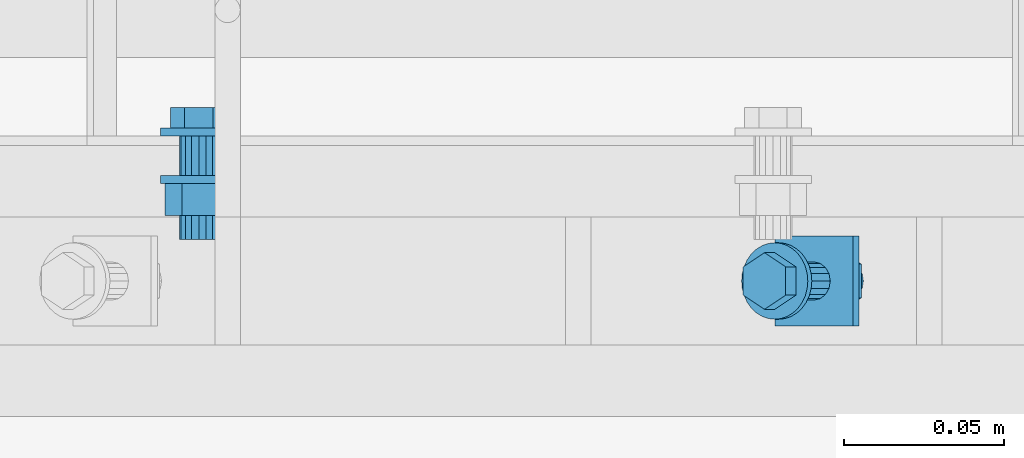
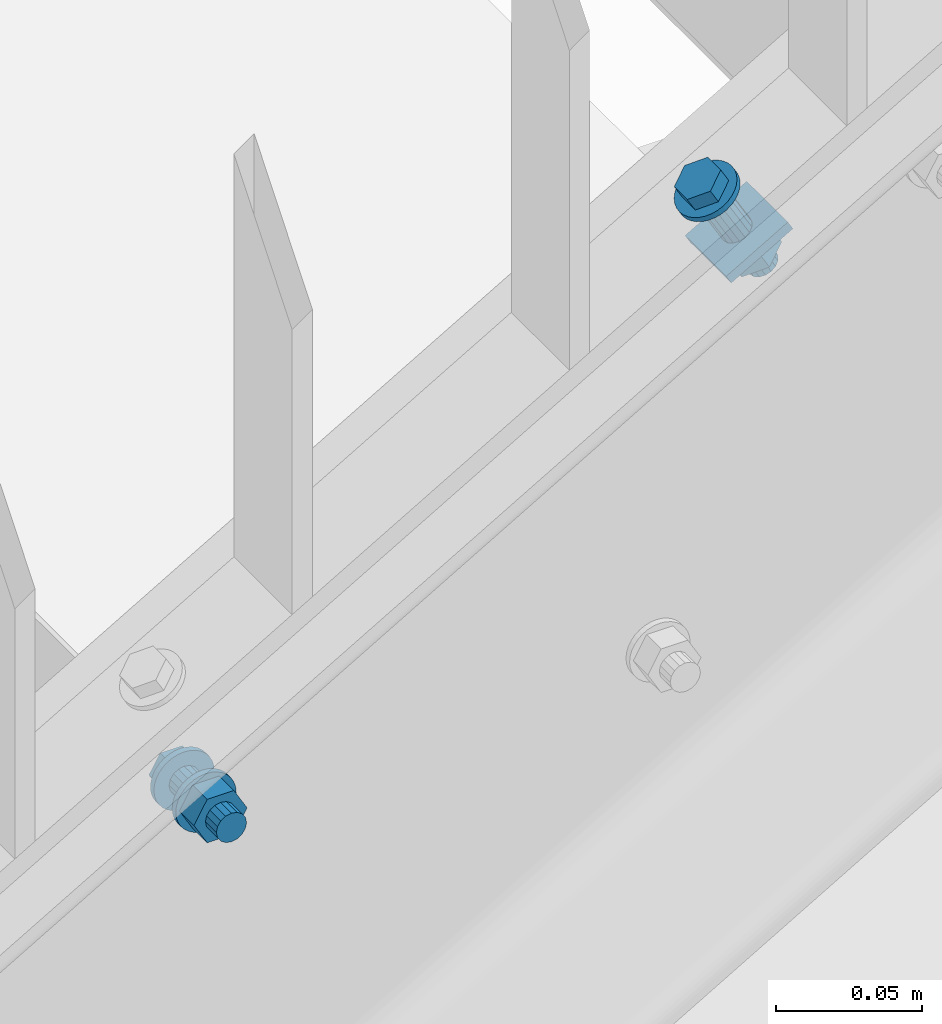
# One storey, part 73 of 145: 2 mechanical fasteners.
"""IFC2X3 building model written with IfcOpenShell, lengths in millimetres."""

from ifc_helpers import new_model, entity, si_unit, converted_unit, origin_with_axes, place, context, project, spatial, faceted_brep, element, save


model = new_model("IFC2X3")

# Units and contexts
model_context = context("Model", 3, precision=1e-09, world=origin_with_axes())
ifc_project = project(units=[si_unit("LENGTHUNIT", "METRE", prefix="MILLI"), si_unit("AREAUNIT", "SQUARE_METRE"), si_unit("VOLUMEUNIT", "CUBIC_METRE"), converted_unit("PLANEANGLEUNIT", "DEGREE", entity("IfcPlaneAngleMeasure", 0.01745329), si_unit("PLANEANGLEUNIT", "RADIAN"), dimensions=[0, 0, 0, 0, 0, 0, 0])], contexts=[model_context])

# Site, building, storey
site_placement = place(None, origin_with_axes())
site = spatial("IfcSite", under=ifc_project, at=site_placement, Name="BZ1 Grund- und Mittelschule 85716 Unterschlei?heim", CompositionType="ELEMENT")
building_placement = place(site_placement, origin_with_axes())
building = spatial("IfcBuilding", under=site, at=building_placement, Name="Struktur 1", CompositionType="ELEMENT")
storey_placement = place(building_placement, origin_with_axes())
storey = spatial("IfcBuildingStorey", under=building, at=storey_placement, Name="Default Storey", CompositionType="ELEMENT", Elevation=0.0)

# Mechanical fasteners
mechanical_fastener_1_placement = place(None, origin_with_axes())
element("IfcMechanicalFastener", 1, at=mechanical_fastener_1_placement, inside=storey, ObjectType="-", NominalDiameter=12.0, NominalLength=45.0, context=model_context, shape_type="Brep", body=[
    faceted_brep([(18899.69427798, -3162.502, 1040.532172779), (18900.951005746, -3162.502, 1038.371007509), (18901.150331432, -3164.843083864, 1038.486916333), (18899.893603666, -3164.843083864, 1040.648081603), (18901.740648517, -3167.094201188, 1038.830188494), (18900.483920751, -3167.094201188, 1040.991353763), (18902.699271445, -3169.168842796, 1039.387632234), (18901.442543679, -3169.168842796, 1041.548797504), (18903.989360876, -3170.987281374, 1040.137825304), (18902.73263311, -3170.987281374, 1042.298990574), (18905.561339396, -3172.479635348, 1041.051938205), (18904.304611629, -3172.479635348, 1043.213103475), (18907.354796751, -3173.58855439, 1042.094842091), (18906.098068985, -3173.58855439, 1044.25600736), (18909.300811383, -3174.271423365, 1043.22645875), (18908.044083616, -3174.271423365, 1045.387624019), (18911.324599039, -3174.502, 1044.403300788), (18910.067871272, -3174.502, 1046.564466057), (18913.348386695, -3174.271423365, 1045.580142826), (18912.091658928, -3174.271423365, 1047.741308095), (18915.294401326, -3173.58855439, 1046.711759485), (18914.03767356, -3173.58855439, 1048.872924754), (18917.087858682, -3172.479635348, 1047.75466337), (18915.831130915, -3172.479635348, 1049.915828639), (18918.659837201, -3170.987281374, 1048.668776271), (18917.403109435, -3170.987281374, 1050.82994154), (18919.949926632, -3169.168842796, 1049.418969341), (18918.693198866, -3169.168842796, 1051.580134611), (18920.90854956, -3167.094201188, 1049.976413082), (18919.651821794, -3167.094201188, 1052.137578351), (18921.498866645, -3164.843083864, 1050.319685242), (18920.242138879, -3164.843083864, 1052.480850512), (18921.698192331, -3162.502, 1050.435594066), (18920.441464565, -3162.502, 1052.596759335), (18921.498866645, -3160.160916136, 1050.319685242), (18920.242138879, -3160.160916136, 1052.480850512), (18920.90854956, -3157.909798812, 1049.976413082), (18919.651821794, -3157.909798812, 1052.137578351), (18919.949926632, -3155.835157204, 1049.418969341), (18918.693198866, -3155.835157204, 1051.580134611), (18918.659837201, -3154.016718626, 1048.668776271), (18917.403109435, -3154.016718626, 1050.82994154), (18917.087858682, -3152.524364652, 1047.75466337), (18915.831130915, -3152.524364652, 1049.915828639), (18915.294401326, -3151.41544561, 1046.711759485), (18914.03767356, -3151.41544561, 1048.872924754), (18913.348386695, -3150.732576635, 1045.580142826), (18912.091658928, -3150.732576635, 1047.741308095), (18911.324599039, -3150.502, 1044.403300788), (18910.067871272, -3150.502, 1046.564466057), (18909.300811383, -3150.732576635, 1043.22645875), (18908.044083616, -3150.732576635, 1045.387624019), (18907.354796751, -3151.41544561, 1042.094842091), (18906.098068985, -3151.41544561, 1044.25600736), (18905.561339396, -3152.524364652, 1041.051938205), (18904.304611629, -3152.524364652, 1043.213103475), (18903.989360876, -3154.016718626, 1040.137825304), (18902.73263311, -3154.016718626, 1042.298990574), (18902.699271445, -3155.835157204, 1039.387632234), (18901.442543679, -3155.835157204, 1041.548797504), (18901.740648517, -3157.909798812, 1038.830188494), (18900.483920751, -3157.909798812, 1040.991353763), (18901.150331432, -3160.160916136, 1038.486916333), (18899.893603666, -3160.160916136, 1040.648081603)], [[[0, 1, 2, 3]], [[3, 2, 4, 5]], [[5, 4, 6, 7]], [[7, 6, 8, 9]], [[9, 8, 10, 11]], [[11, 10, 12, 13]], [[13, 12, 14, 15]], [[15, 14, 16, 17]], [[17, 16, 18, 19]], [[19, 18, 20, 21]], [[21, 20, 22, 23]], [[23, 22, 24, 25]], [[25, 24, 26, 27]], [[27, 26, 28, 29]], [[29, 28, 30, 31]], [[31, 30, 32, 33]], [[33, 32, 34, 35]], [[35, 34, 36, 37]], [[37, 36, 38, 39]], [[39, 38, 40, 41]], [[41, 40, 42, 43]], [[43, 42, 44, 45]], [[45, 44, 46, 47]], [[47, 46, 48, 49]], [[49, 48, 50, 51]], [[51, 50, 52, 53]], [[53, 52, 54, 55]], [[55, 54, 56, 57]], [[57, 56, 58, 59]], [[59, 58, 60, 61]], [[61, 60, 62, 63]], [[63, 62, 1, 0]], [[0, 3, 5, 7, 9, 11, 13, 15, 17, 19, 21, 23, 25, 27, 29, 31, 33, 35, 37, 39, 41, 43, 45, 47, 49, 51, 53, 55, 57, 59, 61, 63]], [[1, 62, 60, 58, 56, 54, 52, 50, 48, 46, 44, 42, 40, 38, 36, 34, 32, 30, 28, 26, 24, 22, 20, 18, 16, 14, 12, 10, 8, 6, 4, 2]]]),
    faceted_brep([(18916.719623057, -3166.9445, 1050.432490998), (18913.502399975, -3166.9445, 1055.965074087), (18906.85064819, -3171.387, 1052.097049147), (18910.067871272, -3171.387, 1046.564466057), (18900.198896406, -3166.9445, 1048.229024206), (18903.416119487, -3166.9445, 1042.696441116), (18900.198896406, -3158.0595, 1048.229024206), (18903.416119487, -3158.0595, 1042.696441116), (18906.85064819, -3153.617, 1052.097049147), (18910.067871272, -3153.617, 1046.564466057), (18913.502399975, -3158.0595, 1055.965074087), (18916.719623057, -3158.0595, 1050.432490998)], [[[0, 1, 2, 3]], [[3, 2, 4, 5]], [[5, 4, 6, 7]], [[7, 6, 8, 9]], [[9, 8, 10, 11]], [[11, 10, 1, 0]], [[4, 2, 1, 10, 8, 6]], [[0, 3, 5, 7, 9, 11]]]),
    faceted_brep([(18906.137802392, -3162.502, 1041.387154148), (18917.118594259, -3162.502, 1022.503743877), (18917.513415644, -3164.798100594, 1022.733334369), (18906.532623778, -3164.798100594, 1041.616744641), (18918.637771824, -3166.744640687, 1023.387152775), (18907.656979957, -3166.744640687, 1042.270563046), (18920.320489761, -3168.045277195, 1024.365661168), (18909.339697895, -3168.045277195, 1043.249071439), (18922.305390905, -3168.502, 1025.519890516), (18911.324599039, -3168.502, 1044.403300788), (18924.290292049, -3168.045277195, 1026.674119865), (18913.309500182, -3168.045277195, 1045.557530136), (18925.973009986, -3166.744640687, 1027.652628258), (18914.99221812, -3166.744640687, 1046.536038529), (18927.097366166, -3164.798100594, 1028.306446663), (18916.1165743, -3164.798100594, 1047.189856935), (18927.492187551, -3162.502, 1028.536037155), (18916.511395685, -3162.502, 1047.419447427), (18927.097366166, -3160.205899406, 1028.306446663), (18916.1165743, -3160.205899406, 1047.189856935), (18925.973009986, -3158.259359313, 1027.652628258), (18914.99221812, -3158.259359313, 1046.536038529), (18924.290292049, -3156.958722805, 1026.674119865), (18913.309500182, -3156.958722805, 1045.557530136), (18922.305390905, -3156.502, 1025.519890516), (18911.324599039, -3156.502, 1044.403300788), (18920.320489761, -3156.958722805, 1024.365661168), (18909.339697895, -3156.958722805, 1043.249071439), (18918.637771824, -3158.259359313, 1023.387152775), (18907.656979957, -3158.259359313, 1042.270563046), (18917.513415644, -3160.205899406, 1022.733334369), (18906.532623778, -3160.205899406, 1041.616744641)], [[[0, 1, 2, 3]], [[3, 2, 4, 5]], [[5, 4, 6, 7]], [[7, 6, 8, 9]], [[9, 8, 10, 11]], [[11, 10, 12, 13]], [[13, 12, 14, 15]], [[15, 14, 16, 17]], [[17, 16, 18, 19]], [[19, 18, 20, 21]], [[21, 20, 22, 23]], [[23, 22, 24, 25]], [[25, 24, 26, 27]], [[27, 26, 28, 29]], [[29, 28, 30, 31]], [[31, 30, 1, 0]], [[0, 3, 5, 7, 9, 11, 13, 15, 17, 19, 21, 23, 25, 27, 29, 31]], [[1, 30, 28, 26, 24, 22, 20, 18, 16, 14, 12, 10, 8, 6, 4, 2]]]),
    faceted_brep([(18936.541552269, -3176.644135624, 1029.171151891), (18934.530787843, -3176.644135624, 1032.629016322), (18910.079993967, -3176.644135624, 1018.410764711), (18912.090758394, -3176.644135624, 1014.95290028), (18910.079993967, -3148.359864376, 1018.410764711), (18912.090758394, -3148.359864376, 1014.95290028), (18934.530787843, -3148.359864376, 1032.629016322), (18936.541552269, -3148.359864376, 1029.171151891)], [[[0, 1, 2, 3]], [[3, 2, 4, 5]], [[5, 4, 6, 7]], [[7, 6, 1, 0]], [[4, 2, 1, 6]], [[0, 3, 5, 7]]]),
    faceted_brep([(18937.241319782, -3167.777, 1018.010236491), (18932.214408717, -3167.777, 1026.654897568), (18924.316155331, -3173.052, 1022.062026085), (18929.343066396, -3173.052, 1013.417365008), (18916.417901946, -3167.777, 1017.469154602), (18921.444813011, -3167.777, 1008.824493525), (18916.417901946, -3157.227, 1017.469154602), (18921.444813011, -3157.227, 1008.824493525), (18924.316155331, -3151.952, 1022.062026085), (18929.343066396, -3151.952, 1013.417365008), (18932.214408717, -3157.227, 1026.654897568), (18937.241319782, -3157.227, 1018.010236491)], [[[0, 1, 2, 3]], [[3, 2, 4, 5]], [[5, 4, 6, 7]], [[7, 6, 8, 9]], [[9, 8, 10, 11]], [[11, 10, 1, 0]], [[4, 2, 1, 10, 8, 6]], [[0, 3, 5, 7, 9, 11]]]),
    faceted_brep([(18924.15626975, -3162.502, 1010.401218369), (18927.50217442, -3162.502, 1004.64734457), (18927.896995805, -3164.798100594, 1004.876935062), (18924.551091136, -3164.798100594, 1010.630808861), (18929.021351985, -3166.744640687, 1005.530753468), (18925.675447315, -3166.744640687, 1011.284627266), (18930.704069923, -3168.045277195, 1006.509261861), (18927.358165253, -3168.045277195, 1012.26313566), (18932.688971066, -3168.502, 1007.663491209), (18929.343066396, -3168.502, 1013.417365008), (18934.67387221, -3168.045277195, 1008.817720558), (18931.32796754, -3168.045277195, 1014.571594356), (18936.356590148, -3166.744640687, 1009.796228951), (18933.010685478, -3166.744640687, 1015.55010275), (18937.480946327, -3164.798100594, 1010.450047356), (18934.135041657, -3164.798100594, 1016.203921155), (18937.875767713, -3162.502, 1010.679637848), (18934.529863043, -3162.502, 1016.433511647), (18937.480946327, -3160.205899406, 1010.450047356), (18934.135041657, -3160.205899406, 1016.203921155), (18936.356590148, -3158.259359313, 1009.796228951), (18933.010685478, -3158.259359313, 1015.55010275), (18934.67387221, -3156.958722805, 1008.817720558), (18931.32796754, -3156.958722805, 1014.571594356), (18932.688971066, -3156.502, 1007.663491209), (18929.343066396, -3156.502, 1013.417365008), (18930.704069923, -3156.958722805, 1006.509261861), (18927.358165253, -3156.958722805, 1012.26313566), (18929.021351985, -3158.259359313, 1005.530753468), (18925.675447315, -3158.259359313, 1011.284627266), (18927.896995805, -3160.205899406, 1004.876935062), (18924.551091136, -3160.205899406, 1010.630808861)], [[[0, 1, 2, 3]], [[3, 2, 4, 5]], [[5, 4, 6, 7]], [[7, 6, 8, 9]], [[9, 8, 10, 11]], [[11, 10, 12, 13]], [[13, 12, 14, 15]], [[15, 14, 16, 17]], [[17, 16, 18, 19]], [[19, 18, 20, 21]], [[21, 20, 22, 23]], [[23, 22, 24, 25]], [[25, 24, 26, 27]], [[27, 26, 28, 29]], [[29, 28, 30, 31]], [[31, 30, 1, 0]], [[0, 3, 5, 7, 9, 11, 13, 15, 17, 19, 21, 23, 25, 27, 29, 31]], [[1, 30, 28, 26, 24, 22, 20, 18, 16, 14, 12, 10, 8, 6, 4, 2]]]),
])
mechanical_fastener_2_placement = place(None, origin_with_axes())
element("IfcMechanicalFastener", 2, at=mechanical_fastener_2_placement, inside=storey, ObjectType="-", NominalDiameter=12.0, NominalLength=35.0, context=model_context, shape_type="Brep", body=[
    faceted_brep([(18729.545399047, -3114.502, 822.090909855), (18729.545399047, -3117.002, 822.090909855), (18727.204315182, -3117.002, 822.32148649), (18727.204315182, -3114.502, 822.32148649), (18724.953197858, -3117.002, 823.004355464), (18724.953197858, -3114.502, 823.004355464), (18722.87855625, -3117.002, 824.113274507), (18722.87855625, -3114.502, 824.113274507), (18721.060117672, -3117.002, 825.60562848), (18721.060117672, -3114.502, 825.60562848), (18719.567763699, -3117.002, 827.424067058), (18719.567763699, -3114.502, 827.424067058), (18718.458844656, -3117.002, 829.498708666), (18718.458844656, -3114.502, 829.498708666), (18717.775975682, -3117.002, 831.74982599), (18717.775975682, -3114.502, 831.74982599), (18717.545399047, -3117.002, 834.090909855), (18717.545399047, -3114.502, 834.090909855), (18717.775975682, -3117.002, 836.431993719), (18717.775975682, -3114.502, 836.431993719), (18718.458844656, -3117.002, 838.683111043), (18718.458844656, -3114.502, 838.683111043), (18719.567763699, -3117.002, 840.757752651), (18719.567763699, -3114.502, 840.757752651), (18721.060117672, -3117.002, 842.576191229), (18721.060117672, -3114.502, 842.576191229), (18722.87855625, -3117.002, 844.068545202), (18722.87855625, -3114.502, 844.068545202), (18724.953197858, -3117.002, 845.177464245), (18724.953197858, -3114.502, 845.177464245), (18727.204315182, -3117.002, 845.860333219), (18727.204315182, -3114.502, 845.860333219), (18729.545399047, -3117.002, 846.090909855), (18729.545399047, -3114.502, 846.090909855), (18731.886482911, -3117.002, 845.860333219), (18731.886482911, -3114.502, 845.860333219), (18734.137600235, -3117.002, 845.177464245), (18734.137600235, -3114.502, 845.177464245), (18736.212241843, -3117.002, 844.068545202), (18736.212241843, -3114.502, 844.068545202), (18738.030680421, -3117.002, 842.576191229), (18738.030680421, -3114.502, 842.576191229), (18739.523034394, -3117.002, 840.757752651), (18739.523034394, -3114.502, 840.757752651), (18740.631953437, -3117.002, 838.683111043), (18740.631953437, -3114.502, 838.683111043), (18741.314822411, -3117.002, 836.431993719), (18741.314822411, -3114.502, 836.431993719), (18741.545399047, -3117.002, 834.090909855), (18741.545399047, -3114.502, 834.090909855), (18741.314822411, -3117.002, 831.74982599), (18741.314822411, -3114.502, 831.74982599), (18740.631953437, -3117.002, 829.498708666), (18740.631953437, -3114.502, 829.498708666), (18739.523034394, -3117.002, 827.424067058), (18739.523034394, -3114.502, 827.424067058), (18738.030680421, -3117.002, 825.60562848), (18738.030680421, -3114.502, 825.60562848), (18736.212241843, -3117.002, 824.113274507), (18736.212241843, -3114.502, 824.113274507), (18734.137600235, -3117.002, 823.004355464), (18734.137600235, -3114.502, 823.004355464), (18731.886482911, -3117.002, 822.32148649), (18731.886482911, -3114.502, 822.32148649)], [[[0, 1, 2, 3]], [[3, 2, 4, 5]], [[5, 4, 6, 7]], [[7, 6, 8, 9]], [[9, 8, 10, 11]], [[11, 10, 12, 13]], [[13, 12, 14, 15]], [[15, 14, 16, 17]], [[17, 16, 18, 19]], [[19, 18, 20, 21]], [[21, 20, 22, 23]], [[23, 22, 24, 25]], [[25, 24, 26, 27]], [[27, 26, 28, 29]], [[29, 28, 30, 31]], [[31, 30, 32, 33]], [[33, 32, 34, 35]], [[35, 34, 36, 37]], [[37, 36, 38, 39]], [[39, 38, 40, 41]], [[41, 40, 42, 43]], [[43, 42, 44, 45]], [[45, 44, 46, 47]], [[47, 46, 48, 49]], [[49, 48, 50, 51]], [[51, 50, 52, 53]], [[53, 52, 54, 55]], [[55, 54, 56, 57]], [[57, 56, 58, 59]], [[59, 58, 60, 61]], [[61, 60, 62, 63]], [[63, 62, 1, 0]], [[0, 3, 5, 7, 9, 11, 13, 15, 17, 19, 21, 23, 25, 27, 29, 31, 33, 35, 37, 39, 41, 43, 45, 47, 49, 51, 53, 55, 57, 59, 61, 63]], [[1, 62, 60, 58, 56, 54, 52, 50, 48, 46, 44, 42, 40, 38, 36, 34, 32, 30, 28, 26, 24, 22, 20, 18, 16, 14, 12, 10, 8, 6, 4, 2]]]),
    faceted_brep([(18725.102899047, -3114.502, 841.785545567), (18725.102899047, -3108.102, 841.785545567), (18720.660399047, -3108.102, 834.090909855), (18720.660399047, -3114.502, 834.090909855), (18725.102899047, -3108.102, 826.396274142), (18725.102899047, -3114.502, 826.396274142), (18733.987899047, -3108.102, 826.396274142), (18733.987899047, -3114.502, 826.396274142), (18738.430399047, -3108.102, 834.090909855), (18738.430399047, -3114.502, 834.090909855), (18733.987899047, -3108.102, 841.785545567), (18733.987899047, -3114.502, 841.785545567)], [[[0, 1, 2, 3]], [[3, 2, 4, 5]], [[5, 4, 6, 7]], [[7, 6, 8, 9]], [[9, 8, 10, 11]], [[11, 10, 1, 0]], [[4, 2, 1, 10, 8, 6]], [[0, 3, 5, 7, 9, 11]]]),
    faceted_brep([(18729.545399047, -3117.002, 828.090909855), (18729.545399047, -3129.502, 828.090909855), (18727.249298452, -3129.502, 828.547632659), (18727.249298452, -3117.002, 828.547632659), (18725.30275836, -3129.502, 829.848269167), (18725.30275836, -3117.002, 829.848269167), (18724.002121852, -3129.502, 831.79480926), (18724.002121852, -3117.002, 831.79480926), (18723.545399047, -3129.502, 834.090909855), (18723.545399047, -3117.002, 834.090909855), (18724.002121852, -3129.502, 836.387010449), (18724.002121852, -3117.002, 836.387010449), (18725.30275836, -3129.502, 838.333550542), (18725.30275836, -3117.002, 838.333550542), (18727.249298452, -3129.502, 839.63418705), (18727.249298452, -3117.002, 839.63418705), (18729.545399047, -3129.502, 840.090909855), (18729.545399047, -3117.002, 840.090909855), (18731.841499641, -3129.502, 839.63418705), (18731.841499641, -3117.002, 839.63418705), (18733.788039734, -3129.502, 838.333550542), (18733.788039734, -3117.002, 838.333550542), (18735.088676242, -3129.502, 836.387010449), (18735.088676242, -3117.002, 836.387010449), (18735.545399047, -3129.502, 834.090909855), (18735.545399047, -3117.002, 834.090909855), (18735.088676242, -3129.502, 831.79480926), (18735.088676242, -3117.002, 831.79480926), (18733.788039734, -3129.502, 829.848269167), (18733.788039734, -3117.002, 829.848269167), (18731.841499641, -3129.502, 828.547632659), (18731.841499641, -3117.002, 828.547632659)], [[[0, 1, 2, 3]], [[3, 2, 4, 5]], [[5, 4, 6, 7]], [[7, 6, 8, 9]], [[9, 8, 10, 11]], [[11, 10, 12, 13]], [[13, 12, 14, 15]], [[15, 14, 16, 17]], [[17, 16, 18, 19]], [[19, 18, 20, 21]], [[21, 20, 22, 23]], [[23, 22, 24, 25]], [[25, 24, 26, 27]], [[27, 26, 28, 29]], [[29, 28, 30, 31]], [[31, 30, 1, 0]], [[0, 3, 5, 7, 9, 11, 13, 15, 17, 19, 21, 23, 25, 27, 29, 31]], [[1, 30, 28, 26, 24, 22, 20, 18, 16, 14, 12, 10, 8, 6, 4, 2]]]),
    faceted_brep([(18729.545399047, -3129.502, 822.090909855), (18729.545399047, -3132.002, 822.090909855), (18727.204315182, -3132.002, 822.32148649), (18727.204315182, -3129.502, 822.32148649), (18724.953197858, -3132.002, 823.004355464), (18724.953197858, -3129.502, 823.004355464), (18722.87855625, -3132.002, 824.113274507), (18722.87855625, -3129.502, 824.113274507), (18721.060117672, -3132.002, 825.60562848), (18721.060117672, -3129.502, 825.60562848), (18719.567763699, -3132.002, 827.424067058), (18719.567763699, -3129.502, 827.424067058), (18718.458844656, -3132.002, 829.498708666), (18718.458844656, -3129.502, 829.498708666), (18717.775975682, -3132.002, 831.74982599), (18717.775975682, -3129.502, 831.74982599), (18717.545399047, -3132.002, 834.090909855), (18717.545399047, -3129.502, 834.090909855), (18717.775975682, -3132.002, 836.431993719), (18717.775975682, -3129.502, 836.431993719), (18718.458844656, -3132.002, 838.683111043), (18718.458844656, -3129.502, 838.683111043), (18719.567763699, -3132.002, 840.757752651), (18719.567763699, -3129.502, 840.757752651), (18721.060117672, -3132.002, 842.576191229), (18721.060117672, -3129.502, 842.576191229), (18722.87855625, -3132.002, 844.068545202), (18722.87855625, -3129.502, 844.068545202), (18724.953197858, -3132.002, 845.177464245), (18724.953197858, -3129.502, 845.177464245), (18727.204315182, -3132.002, 845.860333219), (18727.204315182, -3129.502, 845.860333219), (18729.545399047, -3132.002, 846.090909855), (18729.545399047, -3129.502, 846.090909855), (18731.886482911, -3132.002, 845.860333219), (18731.886482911, -3129.502, 845.860333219), (18734.137600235, -3132.002, 845.177464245), (18734.137600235, -3129.502, 845.177464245), (18736.212241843, -3132.002, 844.068545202), (18736.212241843, -3129.502, 844.068545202), (18738.030680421, -3132.002, 842.576191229), (18738.030680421, -3129.502, 842.576191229), (18739.523034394, -3132.002, 840.757752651), (18739.523034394, -3129.502, 840.757752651), (18740.631953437, -3132.002, 838.683111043), (18740.631953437, -3129.502, 838.683111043), (18741.314822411, -3132.002, 836.431993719), (18741.314822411, -3129.502, 836.431993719), (18741.545399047, -3132.002, 834.090909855), (18741.545399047, -3129.502, 834.090909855), (18741.314822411, -3132.002, 831.74982599), (18741.314822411, -3129.502, 831.74982599), (18740.631953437, -3132.002, 829.498708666), (18740.631953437, -3129.502, 829.498708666), (18739.523034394, -3132.002, 827.424067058), (18739.523034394, -3129.502, 827.424067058), (18738.030680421, -3132.002, 825.60562848), (18738.030680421, -3129.502, 825.60562848), (18736.212241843, -3132.002, 824.113274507), (18736.212241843, -3129.502, 824.113274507), (18734.137600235, -3132.002, 823.004355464), (18734.137600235, -3129.502, 823.004355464), (18731.886482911, -3132.002, 822.32148649), (18731.886482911, -3129.502, 822.32148649)], [[[0, 1, 2, 3]], [[3, 2, 4, 5]], [[5, 4, 6, 7]], [[7, 6, 8, 9]], [[9, 8, 10, 11]], [[11, 10, 12, 13]], [[13, 12, 14, 15]], [[15, 14, 16, 17]], [[17, 16, 18, 19]], [[19, 18, 20, 21]], [[21, 20, 22, 23]], [[23, 22, 24, 25]], [[25, 24, 26, 27]], [[27, 26, 28, 29]], [[29, 28, 30, 31]], [[31, 30, 32, 33]], [[33, 32, 34, 35]], [[35, 34, 36, 37]], [[37, 36, 38, 39]], [[39, 38, 40, 41]], [[41, 40, 42, 43]], [[43, 42, 44, 45]], [[45, 44, 46, 47]], [[47, 46, 48, 49]], [[49, 48, 50, 51]], [[51, 50, 52, 53]], [[53, 52, 54, 55]], [[55, 54, 56, 57]], [[57, 56, 58, 59]], [[59, 58, 60, 61]], [[61, 60, 62, 63]], [[63, 62, 1, 0]], [[0, 3, 5, 7, 9, 11, 13, 15, 17, 19, 21, 23, 25, 27, 29, 31, 33, 35, 37, 39, 41, 43, 45, 47, 49, 51, 53, 55, 57, 59, 61, 63]], [[1, 62, 60, 58, 56, 54, 52, 50, 48, 46, 44, 42, 40, 38, 36, 34, 32, 30, 28, 26, 24, 22, 20, 18, 16, 14, 12, 10, 8, 6, 4, 2]]]),
    faceted_brep([(18724.270399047, -3142.002, 843.227477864), (18724.270399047, -3132.002, 843.227477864), (18718.995399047, -3132.002, 834.090909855), (18718.995399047, -3142.002, 834.090909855), (18724.270399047, -3132.002, 824.954341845), (18724.270399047, -3142.002, 824.954341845), (18734.820399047, -3132.002, 824.954341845), (18734.820399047, -3142.002, 824.954341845), (18740.095399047, -3132.002, 834.090909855), (18740.095399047, -3142.002, 834.090909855), (18734.820399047, -3132.002, 843.227477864), (18734.820399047, -3142.002, 843.227477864)], [[[0, 1, 2, 3]], [[3, 2, 4, 5]], [[5, 4, 6, 7]], [[7, 6, 8, 9]], [[9, 8, 10, 11]], [[11, 10, 1, 0]], [[4, 2, 1, 10, 8, 6]], [[0, 3, 5, 7, 9, 11]]]),
    faceted_brep([(18729.545399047, -3142.002, 828.090909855), (18729.545399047, -3149.502, 828.090909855), (18727.249298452, -3149.502, 828.547632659), (18727.249298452, -3142.002, 828.547632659), (18725.30275836, -3149.502, 829.848269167), (18725.30275836, -3142.002, 829.848269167), (18724.002121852, -3149.502, 831.79480926), (18724.002121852, -3142.002, 831.79480926), (18723.545399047, -3149.502, 834.090909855), (18723.545399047, -3142.002, 834.090909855), (18724.002121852, -3149.502, 836.387010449), (18724.002121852, -3142.002, 836.387010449), (18725.30275836, -3149.502, 838.333550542), (18725.30275836, -3142.002, 838.333550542), (18727.249298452, -3149.502, 839.63418705), (18727.249298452, -3142.002, 839.63418705), (18729.545399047, -3149.502, 840.090909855), (18729.545399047, -3142.002, 840.090909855), (18731.841499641, -3149.502, 839.63418705), (18731.841499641, -3142.002, 839.63418705), (18733.788039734, -3149.502, 838.333550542), (18733.788039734, -3142.002, 838.333550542), (18735.088676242, -3149.502, 836.387010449), (18735.088676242, -3142.002, 836.387010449), (18735.545399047, -3149.502, 834.090909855), (18735.545399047, -3142.002, 834.090909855), (18735.088676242, -3149.502, 831.79480926), (18735.088676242, -3142.002, 831.79480926), (18733.788039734, -3149.502, 829.848269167), (18733.788039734, -3142.002, 829.848269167), (18731.841499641, -3149.502, 828.547632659), (18731.841499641, -3142.002, 828.547632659)], [[[0, 1, 2, 3]], [[3, 2, 4, 5]], [[5, 4, 6, 7]], [[7, 6, 8, 9]], [[9, 8, 10, 11]], [[11, 10, 12, 13]], [[13, 12, 14, 15]], [[15, 14, 16, 17]], [[17, 16, 18, 19]], [[19, 18, 20, 21]], [[21, 20, 22, 23]], [[23, 22, 24, 25]], [[25, 24, 26, 27]], [[27, 26, 28, 29]], [[29, 28, 30, 31]], [[31, 30, 1, 0]], [[0, 3, 5, 7, 9, 11, 13, 15, 17, 19, 21, 23, 25, 27, 29, 31]], [[1, 30, 28, 26, 24, 22, 20, 18, 16, 14, 12, 10, 8, 6, 4, 2]]]),
])

save(model, "model.ifc")
